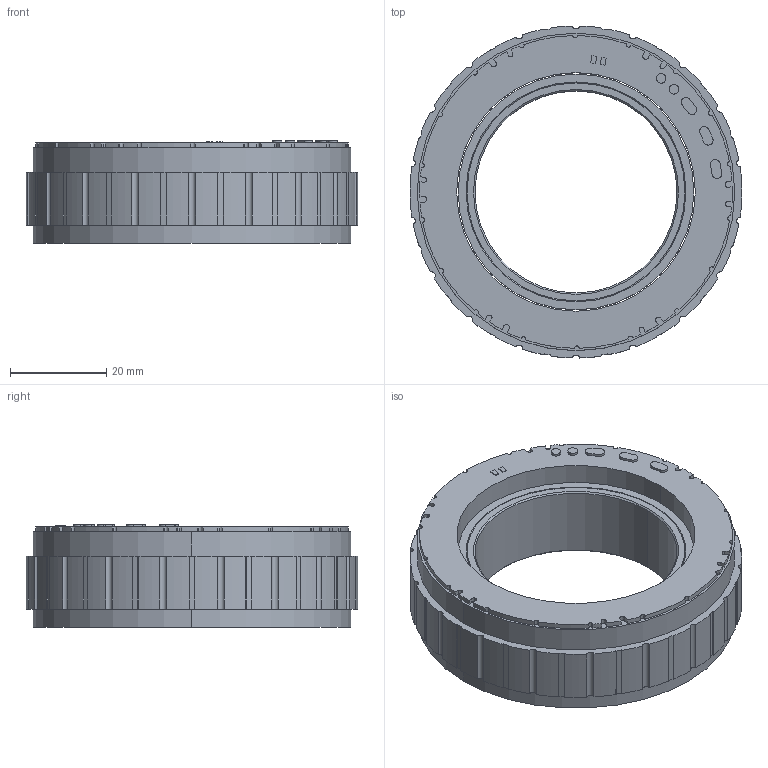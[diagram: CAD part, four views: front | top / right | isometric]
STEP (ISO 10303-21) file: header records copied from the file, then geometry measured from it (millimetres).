
FILE_DESCRIPTION (( 'STEP AP203' ), '1' );
FILE_NAME ('307091726SS£¨FMK07011-0025-3642N-10DP02£©-V1.4.STEP', '2025-12-16T05:36:59', ( '' ), ( '' ), 'SwSTEP 2.0', 'SolidWorks 2023', '' );
FILE_SCHEMA (( 'CONFIG_CONTROL_DESIGN' ));
Length unit declared in the file: millimetre
Products named in the file (1): 307091726SS（FMK07011-0025-3642N-10DP02）-V1.4
Bounding box: 68.99 x 68.98 x 21.39 mm (x, y, z)
Volume: 41801.9 mm3; surface area: 16843.4 mm2
Topology: 2 solids, 2 shells, 271 faces, 757 edges, 502 vertices
Faces by surface type: cylinder 159, plane 104, cone 8
Entity records: 8916 total; most frequent: DIRECTION 1627, CARTESIAN_POINT 1531, ORIENTED_EDGE 1514, EDGE_CURVE 757, AXIS2_PLACEMENT_3D 598, VERTEX_POINT 502, VECTOR 431, LINE 431
